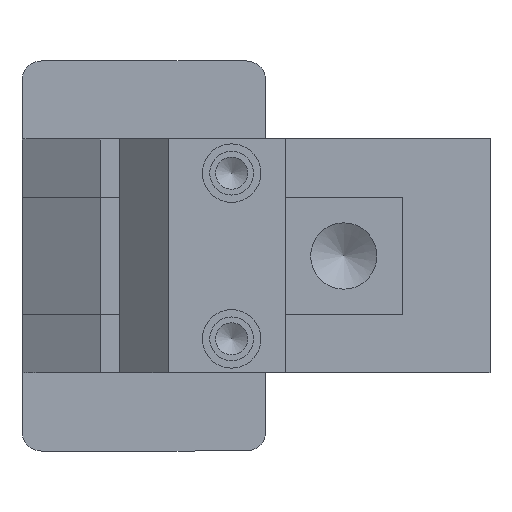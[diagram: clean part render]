
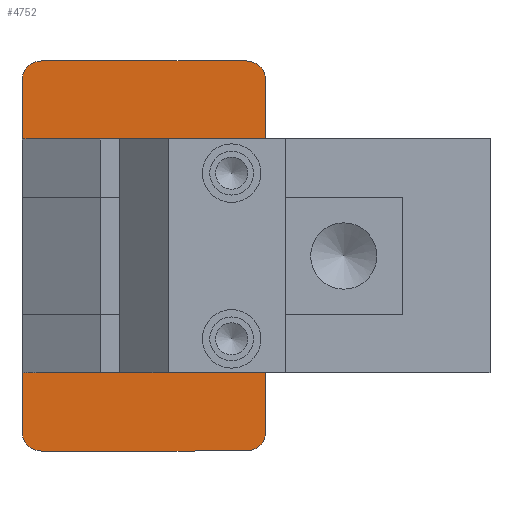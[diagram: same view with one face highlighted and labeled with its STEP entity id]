
A CAD part, left-side view. The second image highlights one B-rep face of the part: STEP entity #4752.
In plain terms, the highlighted planar face has unit normal (-1, 0, 0) as drawn and (0, 0, -1) by its records, which use the part's own axes.
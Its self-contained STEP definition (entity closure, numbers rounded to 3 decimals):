
#342=FACE_BOUND('',#1106,.T.);
#343=FACE_BOUND('',#1107,.T.);
#344=FACE_BOUND('',#1108,.T.);
#345=FACE_BOUND('',#1109,.T.);
#533=CIRCLE('',#5362,2.);
#544=CIRCLE('',#5376,2.);
#545=CIRCLE('',#5379,2.);
#546=CIRCLE('',#5382,2.);
#547=CIRCLE('',#5385,2.15);
#548=CIRCLE('',#5387,2.);
#549=CIRCLE('',#5389,2.);
#550=CIRCLE('',#5391,4.1);
#798=FACE_OUTER_BOUND('',#1105,.T.);
#1105=EDGE_LOOP('',(#4345,#4346,#4347,#4348,#4349,#4350,#4351,#4352));
#1106=EDGE_LOOP('',(#4353));
#1107=EDGE_LOOP('',(#4354));
#1108=EDGE_LOOP('',(#4355));
#1109=EDGE_LOOP('',(#4356));
#1490=LINE('',#19160,#1880);
#1497=LINE('',#19196,#1887);
#1499=LINE('',#19202,#1889);
#1501=LINE('',#19208,#1891);
#1880=VECTOR('',#6594,10.);
#1887=VECTOR('',#6629,10.);
#1889=VECTOR('',#6637,10.);
#1891=VECTOR('',#6645,10.);
#2322=VERTEX_POINT('',#19150);
#2323=VERTEX_POINT('',#19152);
#2325=VERTEX_POINT('',#19158);
#2338=VERTEX_POINT('',#19188);
#2339=VERTEX_POINT('',#19190);
#2340=VERTEX_POINT('',#19194);
#2341=VERTEX_POINT('',#19198);
#2342=VERTEX_POINT('',#19204);
#2343=VERTEX_POINT('',#19210);
#2344=VERTEX_POINT('',#19214);
#2345=VERTEX_POINT('',#19218);
#2346=VERTEX_POINT('',#19222);
#2981=EDGE_CURVE('',#2322,#2323,#533,.T.);
#2985=EDGE_CURVE('',#2322,#2325,#1490,.T.);
#3000=EDGE_CURVE('',#2338,#2339,#544,.T.);
#3003=EDGE_CURVE('',#2338,#2340,#1497,.T.);
#3004=EDGE_CURVE('',#2341,#2340,#545,.T.);
#3006=EDGE_CURVE('',#2341,#2323,#1499,.T.);
#3007=EDGE_CURVE('',#2342,#2325,#546,.T.);
#3009=EDGE_CURVE('',#2342,#2339,#1501,.T.);
#3010=EDGE_CURVE('',#2343,#2343,#547,.T.);
#3013=EDGE_CURVE('',#2344,#2344,#548,.T.);
#3015=EDGE_CURVE('',#2345,#2345,#549,.T.);
#3016=EDGE_CURVE('',#2346,#2346,#550,.T.);
#4345=ORIENTED_EDGE('',*,*,#2981,.F.);
#4346=ORIENTED_EDGE('',*,*,#2985,.T.);
#4347=ORIENTED_EDGE('',*,*,#3007,.F.);
#4348=ORIENTED_EDGE('',*,*,#3009,.T.);
#4349=ORIENTED_EDGE('',*,*,#3000,.F.);
#4350=ORIENTED_EDGE('',*,*,#3003,.T.);
#4351=ORIENTED_EDGE('',*,*,#3004,.F.);
#4352=ORIENTED_EDGE('',*,*,#3006,.T.);
#4353=ORIENTED_EDGE('',*,*,#3010,.T.);
#4354=ORIENTED_EDGE('',*,*,#3013,.T.);
#4355=ORIENTED_EDGE('',*,*,#3015,.T.);
#4356=ORIENTED_EDGE('',*,*,#3016,.T.);
#4505=PLANE('',#5392);
#4752=ADVANCED_FACE('',(#798,#342,#343,#344,#345),#4505,.F.);
#5362=AXIS2_PLACEMENT_3D('',#19153,#6587,#6588);
#5376=AXIS2_PLACEMENT_3D('',#19191,#6623,#6624);
#5379=AXIS2_PLACEMENT_3D('',#19199,#6632,#6633);
#5382=AXIS2_PLACEMENT_3D('',#19205,#6640,#6641);
#5385=AXIS2_PLACEMENT_3D('',#19211,#6648,#6649);
#5387=AXIS2_PLACEMENT_3D('',#19216,#6654,#6655);
#5389=AXIS2_PLACEMENT_3D('',#19220,#6659,#6660);
#5391=AXIS2_PLACEMENT_3D('',#19223,#6663,#6664);
#5392=AXIS2_PLACEMENT_3D('',#19225,#6666,#6667);
#6587=DIRECTION('center_axis',(0.,0.,1.));
#6588=DIRECTION('ref_axis',(-0.707,-0.707,0.));
#6594=DIRECTION('',(0.,1.,0.));
#6623=DIRECTION('center_axis',(0.,0.,1.));
#6624=DIRECTION('ref_axis',(0.707,0.707,0.));
#6629=DIRECTION('',(0.,-1.,0.));
#6632=DIRECTION('center_axis',(0.,0.,1.));
#6633=DIRECTION('ref_axis',(0.707,-0.707,0.));
#6637=DIRECTION('',(-1.,0.,0.));
#6640=DIRECTION('center_axis',(0.,0.,1.));
#6641=DIRECTION('ref_axis',(-0.707,0.707,0.));
#6645=DIRECTION('',(1.,0.,0.));
#6648=DIRECTION('center_axis',(0.,0.,1.));
#6649=DIRECTION('ref_axis',(1.,0.,0.));
#6654=DIRECTION('center_axis',(0.,0.,1.));
#6655=DIRECTION('ref_axis',(1.,0.,0.));
#6659=DIRECTION('center_axis',(0.,0.,1.));
#6660=DIRECTION('ref_axis',(1.,0.,0.));
#6663=DIRECTION('center_axis',(0.,0.,1.));
#6664=DIRECTION('ref_axis',(-1.,0.,0.));
#6666=DIRECTION('center_axis',(0.,0.,1.));
#6667=DIRECTION('ref_axis',(1.,0.,0.));
#19150=CARTESIAN_POINT('',(19.216,24.045,0.));
#19152=CARTESIAN_POINT('',(21.216,22.045,0.));
#19153=CARTESIAN_POINT('Origin',(21.216,24.045,0.));
#19158=CARTESIAN_POINT('',(19.216,45.045,0.));
#19160=CARTESIAN_POINT('',(19.216,41.045,0.));
#19188=CARTESIAN_POINT('',(59.216,45.045,0.));
#19190=CARTESIAN_POINT('',(57.216,47.045,0.));
#19191=CARTESIAN_POINT('Origin',(57.216,45.045,0.));
#19194=CARTESIAN_POINT('',(59.216,24.045,0.));
#19196=CARTESIAN_POINT('',(59.216,41.045,0.));
#19198=CARTESIAN_POINT('',(57.216,22.045,0.));
#19199=CARTESIAN_POINT('Origin',(57.216,24.045,0.));
#19202=CARTESIAN_POINT('',(39.216,22.045,0.));
#19204=CARTESIAN_POINT('',(21.216,47.045,0.));
#19205=CARTESIAN_POINT('Origin',(21.216,45.045,0.));
#19208=CARTESIAN_POINT('',(59.216,47.045,0.));
#19210=CARTESIAN_POINT('',(37.066,40.045,0.));
#19211=CARTESIAN_POINT('Origin',(39.216,40.045,0.));
#19214=CARTESIAN_POINT('',(46.216,31.045,0.));
#19216=CARTESIAN_POINT('Origin',(48.216,31.045,0.));
#19218=CARTESIAN_POINT('',(28.216,31.045,0.));
#19220=CARTESIAN_POINT('Origin',(30.216,31.045,0.));
#19222=CARTESIAN_POINT('',(43.316,31.045,0.));
#19223=CARTESIAN_POINT('Origin',(39.216,31.045,0.));
#19225=CARTESIAN_POINT('Origin',(39.216,31.045,0.));
